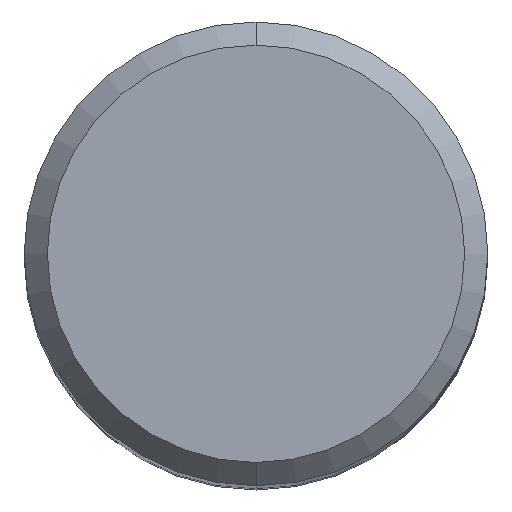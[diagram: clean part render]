
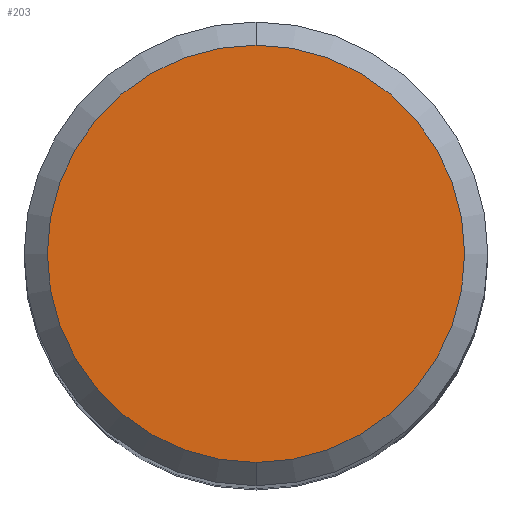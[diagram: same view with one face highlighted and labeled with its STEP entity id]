
A CAD part, top view. The second image highlights one B-rep face of the part: STEP entity #203.
In plain terms, the highlighted planar face has unit normal (0, 0, 1).
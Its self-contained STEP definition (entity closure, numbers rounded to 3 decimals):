
#181=VERTEX_POINT('',#473);
#203=ADVANCED_FACE('',(#497),#498,.T.);
#369=EDGE_CURVE('',#181,#407,#681,.T.);
#403=EDGE_CURVE('',#407,#181,#718,.T.);
#407=VERTEX_POINT('',#722);
#473=CARTESIAN_POINT('',(0.0,5.4,0.0));
#497=FACE_OUTER_BOUND('',#850,.T.);
#498=PLANE('',#851);
#681=CIRCLE('',#1335,5.4);
#718=CIRCLE('',#1379,5.4);
#722=CARTESIAN_POINT('',(0.,-5.4,0.0));
#850=EDGE_LOOP('',(#1484,#1485));
#851=AXIS2_PLACEMENT_3D('',#1486,#1487,#1488);
#1335=AXIS2_PLACEMENT_3D('',#1686,#1687,#1688);
#1379=AXIS2_PLACEMENT_3D('',#1721,#1722,#1723);
#1484=ORIENTED_EDGE('',*,*,#369,.F.);
#1485=ORIENTED_EDGE('',*,*,#403,.F.);
#1486=CARTESIAN_POINT('',(0.0,2.7,0.0));
#1487=DIRECTION('',(-0.0,0.0,1.0));
#1488=DIRECTION('',(0.0,-1.0,0.0));
#1686=CARTESIAN_POINT('',(0.0,0.0,0.0));
#1687=DIRECTION('',(0.0,0.0,-1.0));
#1688=DIRECTION('',(0.0,1.0,0.0));
#1721=CARTESIAN_POINT('',(0.0,0.0,0.0));
#1722=DIRECTION('',(0.0,0.0,-1.0));
#1723=DIRECTION('',(0.0,1.0,0.0));
